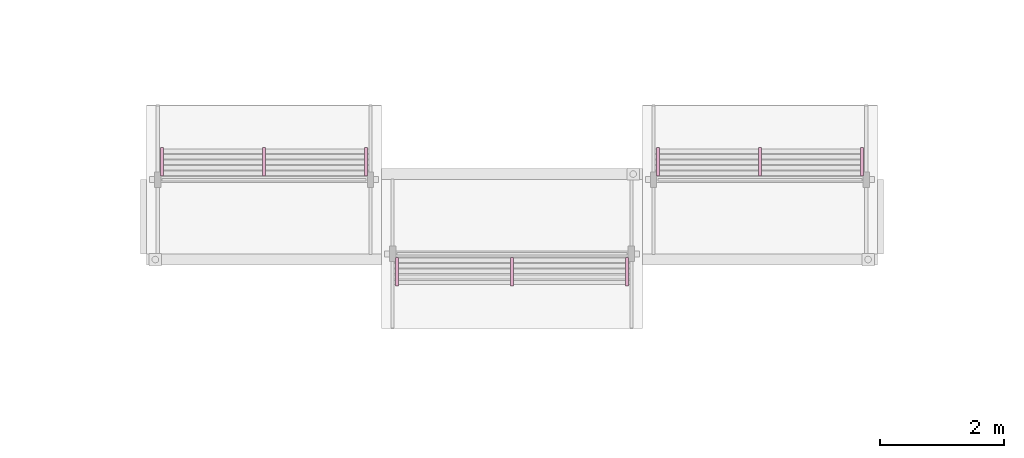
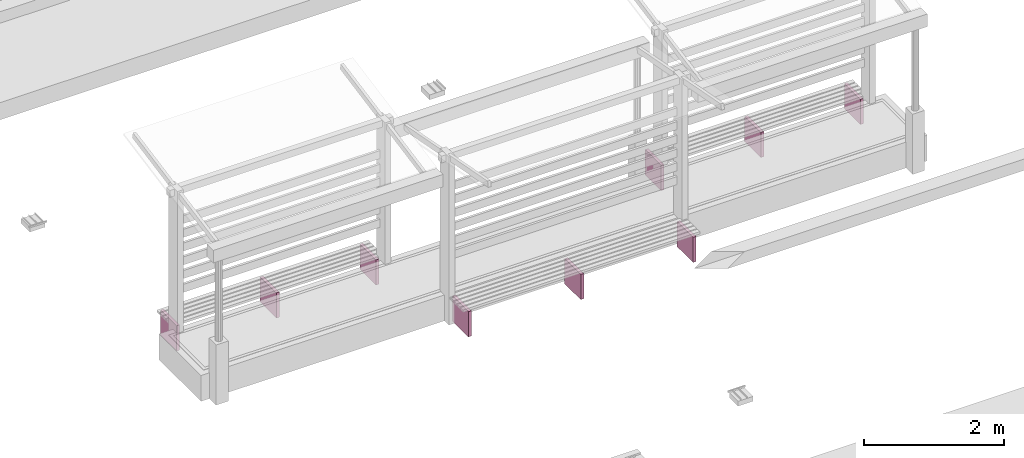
# One storey, part 84 of 90: 9 furnishings.
"""IFC2X3 building model written with IfcOpenShell, lengths in metres."""

import ifcopenshell
import ifcopenshell.guid

model = None  # the IFC model being written
_history = None  # IfcOwnerHistory: only IFC2X3 demands one
_inside = {}  # id of a spatial element -> (the spatial element, [elements in it])
_under = {}  # id of a project, library or spatial element -> (it, [spatial elements below it])
_declared = {}  # id of a project -> (the project, [libraries it declares])
_typed = {}  # id of a type object -> (the type object, [elements of that type])
_made_of = {}  # id of a material, layer set ... -> (it, [elements and type objects made of it])


def new_model(schema):
    """Start an empty IFC model of exactly this schema.

    Asked for "IFC4X3", IfcOpenShell would pick the latest addendum, in which some entities
    have other attributes; the version numbers below select the first issue.
    IFC2X3 requires an IfcOwnerHistory on every rooted entity: one is made here for all.
    """
    global model, _history
    if schema == "IFC4X3":
        model = ifcopenshell.file(schema_version=(4, 3, 0, 0))
    else:
        model = ifcopenshell.file(schema=schema)
    _inside.clear()
    _under.clear()
    _declared.clear()
    _typed.clear()
    _made_of.clear()
    _history = None
    if model.schema == "IFC2X3":
        org = make("IfcOrganization", Name="unknown")
        user = make(
            "IfcPersonAndOrganization",
            ThePerson=make("IfcPerson", FamilyName="unknown"),
            TheOrganization=org,
        )
        app = make(
            "IfcApplication",
            ApplicationDeveloper=org,
            Version="unknown",
            ApplicationFullName="unknown",
            ApplicationIdentifier="unknown",
        )
        _history = make(
            "IfcOwnerHistory",
            OwningUser=user,
            OwningApplication=app,
            ChangeAction="ADDED",
            CreationDate=0,
        )
    return model


def make(cls, **values):
    """One entity of the class cls with the attributes given. An attribute that is None is left unset."""
    return model.create_entity(
        cls, **{name: value for name, value in values.items() if value is not None}
    )


def rooted(cls, **values):
    """An entity with a GlobalId (a new one), such as an element, a storey or a relation."""
    return make(cls, GlobalId=ifcopenshell.guid.new(), OwnerHistory=_history, **values)


def si_unit(unit_type, name, prefix=None):
    """IfcSIUnit, for example si_unit("LENGTHUNIT", "METRE", prefix="MILLI")."""
    return make("IfcSIUnit", UnitType=unit_type, Prefix=prefix, Name=name)


def assignment(units):
    """IfcUnitAssignment: the units of a project."""
    return None if units is None else make("IfcUnitAssignment", Units=units)


def point(xyz):
    """IfcCartesianPoint."""
    return None if xyz is None else make("IfcCartesianPoint", Coordinates=xyz)


def direction(xyz):
    """IfcDirection."""
    return None if xyz is None else make("IfcDirection", DirectionRatios=xyz)


def frame(location, z_axis=None, x_axis=None):
    """IfcAxis2Placement3D, a coordinate frame: its origin and axes. An axis left out is left unset."""
    return make(
        "IfcAxis2Placement3D",
        Location=point(location),
        Axis=direction(z_axis),
        RefDirection=direction(x_axis),
    )


def origin():
    """The frame at (0, 0, 0) with its axes left unset."""
    return frame((0.0, 0.0, 0.0))


def origin_with_axes():
    """The frame at (0, 0, 0) with the z axis (0, 0, 1) and the x axis (1, 0, 0) written out."""
    return frame((0.0, 0.0, 0.0), z_axis=(0.0, 0.0, 1.0), x_axis=(1.0, 0.0, 0.0))


def place(relative_to, where):
    """IfcLocalPlacement: puts the frame where relative to a parent placement (None: the world)."""
    return make(
        "IfcLocalPlacement", PlacementRelTo=relative_to, RelativePlacement=where
    )


def context(
    kind, dimensions, precision=None, world=None, true_north=None, identifier=None
):
    """IfcGeometricRepresentationContext, for example the 3D "Model" context."""
    return make(
        "IfcGeometricRepresentationContext",
        ContextIdentifier=identifier,
        ContextType=kind,
        CoordinateSpaceDimension=dimensions,
        Precision=precision,
        WorldCoordinateSystem=world,
        TrueNorth=true_north,
    )


def subcontext(parent, identifier, kind, view, scale=None):
    """IfcGeometricRepresentationSubContext, for example "Body" below "Model"."""
    return make(
        "IfcGeometricRepresentationSubContext",
        ContextIdentifier=identifier,
        ContextType=kind,
        ParentContext=parent,
        TargetScale=scale,
        TargetView=view,
    )


def project(units=None, contexts=None):
    """IfcProject with its units and contexts."""
    return rooted(
        "IfcProject",
        Name="project",
        RepresentationContexts=contexts,
        UnitsInContext=assignment(units),
    )


def spatial(cls, under=None, at=None, **own):
    """A site, building, storey or space (cls), placed at a placement, below another one or the project."""
    s = rooted(cls, ObjectPlacement=at, **own)
    if under is not None:
        _under.setdefault(under.id(), (under, []))[1].append(s)
    return s


def faces_of(points, faces, orient=None, outer=None):
    """IfcFace entities. A face is a list of loops; a loop is a list of indices into points, from 0.

    orient and outer hold one flag for each loop. By default every Orientation is true, the
    first loop of a face is its IfcFaceOuterBound and the others are IfcFaceBound.
    """
    made = []
    for i, loops in enumerate(faces):
        bounds = []
        for j, loop in enumerate(loops):
            is_outer = j == 0 if outer is None else outer[i][j]
            bounds.append(
                make(
                    "IfcFaceOuterBound" if is_outer else "IfcFaceBound",
                    Bound=make("IfcPolyLoop", Polygon=[points[k] for k in loop]),
                    Orientation=True if orient is None else orient[i][j],
                )
            )
        made.append(make("IfcFace", Bounds=bounds))
    return made


def faceted_brep(points, faces, orient=None, outer=None, voids=None):
    """IfcFacetedBrep: a solid bounded by flat faces; with voids (closed shells), ...WithVoids."""
    shared = [point(p) for p in points]
    hull = make("IfcClosedShell", CfsFaces=faces_of(shared, faces, orient, outer))
    if voids is None:
        return make("IfcFacetedBrep", Outer=hull)
    return make(
        "IfcFacetedBrepWithVoids",
        Outer=hull,
        Voids=[
            make(cls, CfsFaces=faces_of(shared, fs, o, b)) for cls, fs, o, b in voids
        ],
    )


def shape(context_of_items, identifier, shape_type, items):
    """IfcShapeRepresentation: the items that make up one representation, for example the "Body"."""
    return make(
        "IfcShapeRepresentation",
        ContextOfItems=context_of_items,
        RepresentationIdentifier=identifier,
        RepresentationType=shape_type,
        Items=items,
    )


def made_of(thing, what):
    """Note that an element or type object is made of a material, layer set ...; save() writes the relation."""
    if what is not None:
        _made_of.setdefault(what.id(), (what, []))[1].append(thing)
    return thing


def element(
    cls,
    number,
    at=None,
    inside=None,
    cuts=None,
    type_object=None,
    material=None,
    context=None,
    identifier="Body",
    shape_type=None,
    held_by="IfcProductDefinitionShape",
    body=None,
    shapes=None,
    **own,
):
    """One element of the class cls, such as IfcWall. Its Tag is "e" and its number.

    at: its placement. inside: the storey or other place that contains it. cuts: it is an
    opening in that element (IfcRelVoidsElement). A single representation is given by context,
    identifier, shape_type and body (its items); several are given by shapes. held_by: the class
    of the entity that holds the representations. save() writes the other relations.
    """
    e = rooted(cls, Tag="e%d" % number, ObjectPlacement=at, **own)
    if body is not None:
        shapes = [shape(context, identifier, shape_type, body)]
    if shapes is not None:
        e.Representation = make(held_by, Representations=shapes)
    if inside is not None:
        _inside.setdefault(inside.id(), (inside, []))[1].append(e)
    if cuts is not None:
        rooted(
            "IfcRelVoidsElement", RelatingBuildingElement=cuts, RelatedOpeningElement=e
        )
    if type_object is not None:
        _typed.setdefault(type_object.id(), (type_object, []))[1].append(e)
    return made_of(e, material)


def aggregate(whole, parts):
    """IfcRelAggregates: a whole, such as a stair, and the parts it consists of."""
    return rooted("IfcRelAggregates", RelatingObject=whole, RelatedObjects=parts)


def save(model, path):
    """Write the relations noted so far, then the file.

    IfcRelAggregates (storeys below a building ...), IfcRelContainedInSpatialStructure (elements
    in a storey), IfcRelDefinesByType, IfcRelAssociatesMaterial and IfcRelDeclares: one each for
    every whole, place, type object, material and project.
    """
    for whole, parts in _under.values():
        aggregate(whole, parts)
    for where, things in _inside.values():
        rooted(
            "IfcRelContainedInSpatialStructure",
            RelatedElements=things,
            RelatingStructure=where,
        )
    for kind, things in _typed.values():
        rooted("IfcRelDefinesByType", RelatedObjects=things, RelatingType=kind)
    for what, things in _made_of.values():
        rooted("IfcRelAssociatesMaterial", RelatedObjects=things, RelatingMaterial=what)
    for by, libraries in _declared.values():
        rooted("IfcRelDeclares", RelatingContext=by, RelatedDefinitions=libraries)
    model.write(path)


model = new_model("IFC2X3")

# Units and contexts
model_context = context("Model", 3, precision=1e-05, world=origin_with_axes())
body_context = subcontext(model_context, "Body", "Model", "MODEL_VIEW")
ifc_project = project(units=[si_unit("LENGTHUNIT", "METRE"), si_unit("AREAUNIT", "SQUARE_METRE"), si_unit("VOLUMEUNIT", "CUBIC_METRE"), si_unit("PLANEANGLEUNIT", "RADIAN")], contexts=[model_context])

# Site, building, storey
site_placement = place(None, origin_with_axes())
site = spatial("IfcSite", under=ifc_project, at=site_placement, Name="Predio Los Mangos - Morales, San Martín", CompositionType="ELEMENT")
building_placement = place(site_placement, origin())
building = spatial("IfcBuilding", under=site, at=building_placement, Name="Hogar de Refugio Temporal", CompositionType="ELEMENT")
storey_placement = place(building_placement, origin())
storey = spatial("IfcBuildingStorey", under=building, at=storey_placement, Name="NIVEL 1 (NPT +0.00)", CompositionType="ELEMENT", Elevation=0.0)

# Furnishings
furnishing_1_placement = place(storey_placement, origin())
element("IfcFurnishingElement", 1, at=furnishing_1_placement, inside=storey, Name="oc01_pata", ObjectType="Mobiliario exterior / juegos", context=body_context, shape_type="Brep", body=[
    faceted_brep([(46.02, 111.37, 0.0), (46.02, 110.91, 0.0), (45.97, 110.91, 0.0), (45.97, 111.37, 0.0), (46.02, 111.37, 0.44), (45.97, 111.37, 0.44), (45.97, 110.91, 0.44), (46.02, 110.91, 0.44)], [[[0, 1, 2, 3]], [[4, 5, 6, 7]], [[0, 3, 5, 4]], [[3, 2, 6, 5]], [[2, 1, 7, 6]], [[1, 0, 4, 7]]]),
])
furnishing_2_placement = place(storey_placement, origin())
element("IfcFurnishingElement", 2, at=furnishing_2_placement, inside=storey, Name="oc01_pata", ObjectType="Mobiliario exterior / juegos", context=body_context, shape_type="Brep", body=[
    faceted_brep([(44.375, 111.37, 0.0), (44.375, 110.91, 0.0), (44.325, 110.91, 0.0), (44.325, 111.37, 0.0), (44.375, 111.37, 0.44), (44.325, 111.37, 0.44), (44.325, 110.91, 0.44), (44.375, 110.91, 0.44)], [[[0, 1, 2, 3]], [[4, 5, 6, 7]], [[0, 3, 5, 4]], [[3, 2, 6, 5]], [[2, 1, 7, 6]], [[1, 0, 4, 7]]]),
])
furnishing_3_placement = place(storey_placement, origin())
element("IfcFurnishingElement", 3, at=furnishing_3_placement, inside=storey, Name="oc01_pata", ObjectType="Mobiliario exterior / juegos", context=body_context, shape_type="Brep", body=[
    faceted_brep([(42.73, 111.37, 0.0), (42.73, 110.91, 0.0), (42.68, 110.91, 0.0), (42.68, 111.37, 0.0), (42.73, 111.37, 0.44), (42.68, 111.37, 0.44), (42.68, 110.91, 0.44), (42.73, 110.91, 0.44)], [[[0, 1, 2, 3]], [[4, 5, 6, 7]], [[0, 3, 5, 4]], [[3, 2, 6, 5]], [[2, 1, 7, 6]], [[1, 0, 4, 7]]]),
])
furnishing_4_placement = place(storey_placement, origin())
element("IfcFurnishingElement", 4, at=furnishing_4_placement, inside=storey, Name="oc01_pata", ObjectType="Mobiliario exterior / juegos", context=body_context, shape_type="Brep", body=[
    faceted_brep([(42.23, 109.59, 0.0), (42.23, 109.13, 0.0), (42.18, 109.13, 0.0), (42.18, 109.59, 0.0), (42.23, 109.59, 0.44), (42.18, 109.59, 0.44), (42.18, 109.13, 0.44), (42.23, 109.13, 0.44)], [[[0, 1, 2, 3]], [[4, 5, 6, 7]], [[0, 3, 5, 4]], [[3, 2, 6, 5]], [[2, 1, 7, 6]], [[1, 0, 4, 7]]]),
])
furnishing_5_placement = place(storey_placement, origin())
element("IfcFurnishingElement", 5, at=furnishing_5_placement, inside=storey, Name="oc01_pata", ObjectType="Mobiliario exterior / juegos", context=body_context, shape_type="Brep", body=[
    faceted_brep([(40.375, 109.59, 0.0), (40.375, 109.13, 0.0), (40.325, 109.13, 0.0), (40.325, 109.59, 0.0), (40.375, 109.59, 0.44), (40.325, 109.59, 0.44), (40.325, 109.13, 0.44), (40.375, 109.13, 0.44)], [[[0, 1, 2, 3]], [[4, 5, 6, 7]], [[0, 3, 5, 4]], [[3, 2, 6, 5]], [[2, 1, 7, 6]], [[1, 0, 4, 7]]]),
])
furnishing_6_placement = place(storey_placement, origin())
element("IfcFurnishingElement", 6, at=furnishing_6_placement, inside=storey, Name="oc01_pata", ObjectType="Mobiliario exterior / juegos", context=body_context, shape_type="Brep", body=[
    faceted_brep([(38.52, 109.59, 0.0), (38.52, 109.13, 0.0), (38.47, 109.13, 0.0), (38.47, 109.59, 0.0), (38.52, 109.59, 0.44), (38.47, 109.59, 0.44), (38.47, 109.13, 0.44), (38.52, 109.13, 0.44)], [[[0, 1, 2, 3]], [[4, 5, 6, 7]], [[0, 3, 5, 4]], [[3, 2, 6, 5]], [[2, 1, 7, 6]], [[1, 0, 4, 7]]]),
])
furnishing_7_placement = place(storey_placement, origin())
element("IfcFurnishingElement", 7, at=furnishing_7_placement, inside=storey, Name="oc01_pata", ObjectType="Mobiliario exterior / juegos", context=body_context, shape_type="Brep", body=[
    faceted_brep([(38.02, 111.37, 0.0), (38.02, 110.91, 0.0), (37.97, 110.91, 0.0), (37.97, 111.37, 0.0), (38.02, 111.37, 0.44), (37.97, 111.37, 0.44), (37.97, 110.91, 0.44), (38.02, 110.91, 0.44)], [[[0, 1, 2, 3]], [[4, 5, 6, 7]], [[0, 3, 5, 4]], [[3, 2, 6, 5]], [[2, 1, 7, 6]], [[1, 0, 4, 7]]]),
])
furnishing_8_placement = place(storey_placement, origin())
element("IfcFurnishingElement", 8, at=furnishing_8_placement, inside=storey, Name="oc01_pata", ObjectType="Mobiliario exterior / juegos", context=body_context, shape_type="Brep", body=[
    faceted_brep([(36.375, 111.37, 0.0), (36.375, 110.91, 0.0), (36.325, 110.91, 0.0), (36.325, 111.37, 0.0), (36.375, 111.37, 0.44), (36.325, 111.37, 0.44), (36.325, 110.91, 0.44), (36.375, 110.91, 0.44)], [[[0, 1, 2, 3]], [[4, 5, 6, 7]], [[0, 3, 5, 4]], [[3, 2, 6, 5]], [[2, 1, 7, 6]], [[1, 0, 4, 7]]]),
])
furnishing_9_placement = place(storey_placement, origin())
element("IfcFurnishingElement", 9, at=furnishing_9_placement, inside=storey, Name="oc01_pata", ObjectType="Mobiliario exterior / juegos", context=body_context, shape_type="Brep", body=[
    faceted_brep([(34.73, 111.37, 0.0), (34.73, 110.91, 0.0), (34.68, 110.91, 0.0), (34.68, 111.37, 0.0), (34.73, 111.37, 0.44), (34.68, 111.37, 0.44), (34.68, 110.91, 0.44), (34.73, 110.91, 0.44)], [[[0, 1, 2, 3]], [[4, 5, 6, 7]], [[0, 3, 5, 4]], [[3, 2, 6, 5]], [[2, 1, 7, 6]], [[1, 0, 4, 7]]]),
])

save(model, "model.ifc")
